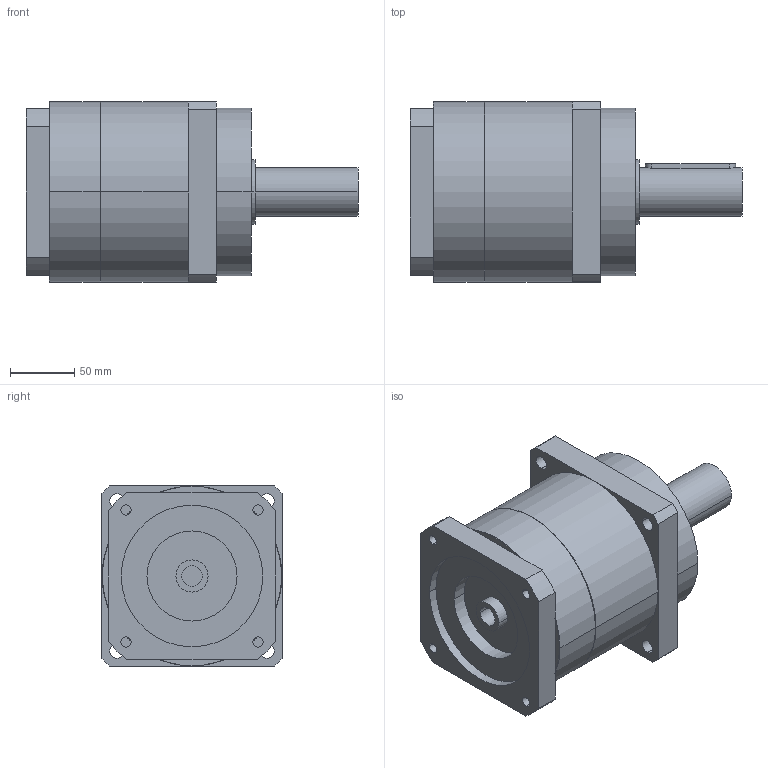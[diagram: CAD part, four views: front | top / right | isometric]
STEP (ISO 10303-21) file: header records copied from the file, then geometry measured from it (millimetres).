
FILE_DESCRIPTION(('CoCreate Modeling STEP Export'),'2;1');
FILE_NAME('GPR150_ig-3-4-5-7_38_B5_16_P08.stp','2014-08-19T16:41:53',(''),(''),'CoCreate Modeling STEP processor for AP214 (Solid Model)','CoCreate Modeling 16.00C 25-Feb-2009 (C) Parametric Technology GmbH','');
FILE_SCHEMA(('AUTOMOTIVE_DESIGN { 1 0 10303 214 1 1 1 1 }'));
Length unit declared in the file: millimetre
Products named in the file (2): GPR150_ig-3-4-5-7_38_B5_16_P08
Assembly tree (1 placements, depth 2):
  GPR150_ig-3-4-5-7_38_B5_16_P08
    GPR150_ig-3-4-5-7_38_B5_16_P08
Bounding box: 258 x 140 x 140 mm (x, y, z)
Volume: 2721203.4 mm3; surface area: 144582.4 mm2
Topology: 1 solids, 1 shells, 89 faces, 241 edges, 157 vertices
Faces by surface type: cylinder 46, plane 37, cone 6
Entity records: 2432 total; most frequent: ORIENTED_EDGE 478, CARTESIAN_POINT 442, DIRECTION 336, EDGE_CURVE 239, VERTEX_POINT 157, AXIS2_PLACEMENT_3D 123, EDGE_LOOP 110, VECTOR 90
